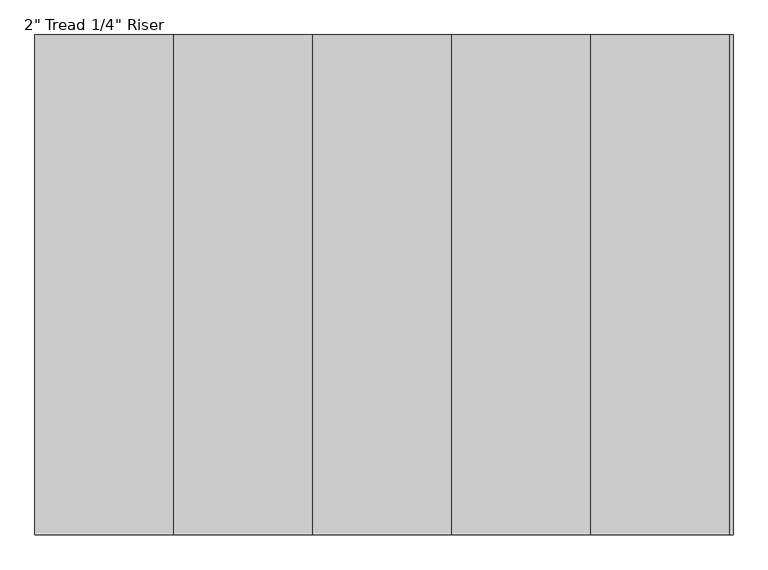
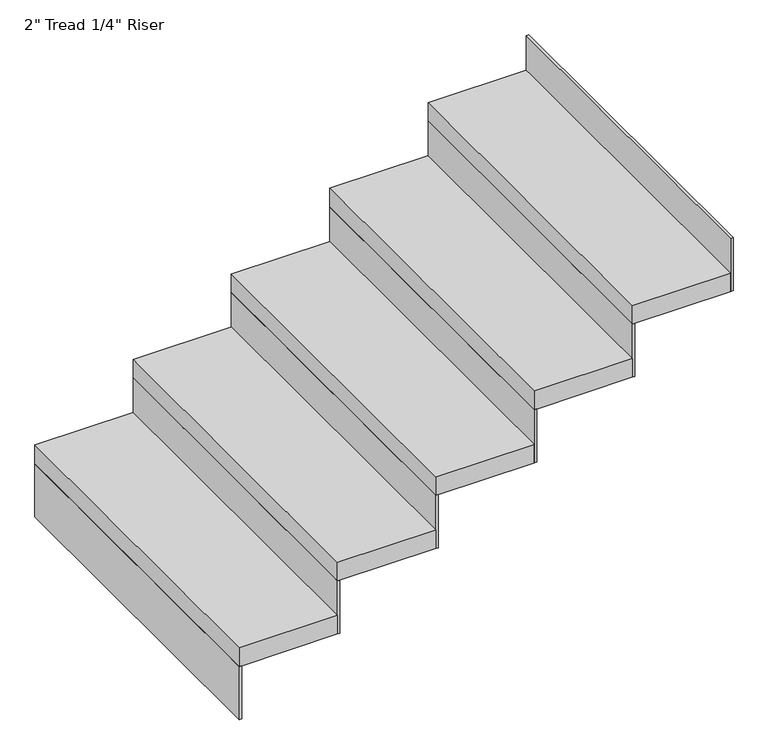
"""IFC4 building model written with IfcOpenShell, lengths in millimetres: stair flight geometry."""

from ifc_helpers import new_model, si_unit, frame, origin, place, context, project, spatial, polyline, outline, extrude, source, transform, mapped, element, save


def stair_flight_38fbb28f(model_context):
    return source(origin(), model_context, "Body", "SweptSolid", [
        extrude(outline(polyline([(113619.5003162, 32332.2812523), (113613.1503162, 32332.2812523), (113613.1503162, 33246.6812523), (113619.5003162, 33246.6812523), (113619.5003162, 32332.2812523)])), frame((0.0, 0.0, 2126.3428571), z_axis=(0.0, 0.0, 1.0), x_axis=(1.0, 0.0, 0.0)), (0.0, 0.0, 1.0), 145.1428571),
        extrude(outline(polyline([(113867.1503162, 33246.6812523), (113867.1503162, 32332.2812523), (113613.1503162, 32332.2812523), (113613.1503162, 33246.6812523), (113867.1503162, 33246.6812523)])), frame((0.0, 0.0, 2271.4857143), z_axis=(0.0, 0.0, 1.0), x_axis=(1.0, 0.0, 0.0)), (0.0, 0.0, 1.0), 50.8),
        extrude(outline(polyline([(113873.5003162, 32332.2812523), (113867.1503162, 32332.2812523), (113867.1503162, 33246.6812523), (113873.5003162, 33246.6812523), (113873.5003162, 32332.2812523)])), frame((0.0, 0.0, 2271.4857143), z_axis=(0.0, 0.0, 1.0), x_axis=(1.0, 0.0, 0.0)), (0.0, 0.0, 1.0), 145.1428571),
        extrude(outline(polyline([(114121.1503162, 33246.6812523), (114121.1503162, 32332.2812523), (113867.1503162, 32332.2812523), (113867.1503162, 33246.6812523), (114121.1503162, 33246.6812523)])), frame((0.0, 0.0, 2416.6285714), z_axis=(0.0, 0.0, 1.0), x_axis=(1.0, 0.0, 0.0)), (0.0, 0.0, 1.0), 50.8),
        extrude(outline(polyline([(114127.5003162, 32332.2812523), (114121.1503162, 32332.2812523), (114121.1503162, 33246.6812523), (114127.5003162, 33246.6812523), (114127.5003162, 32332.2812523)])), frame((0.0, 0.0, 2416.6285714), z_axis=(0.0, 0.0, 1.0), x_axis=(1.0, 0.0, 0.0)), (0.0, 0.0, 1.0), 145.1428571),
        extrude(outline(polyline([(114375.1503162, 33246.6812523), (114375.1503162, 32332.2812523), (114121.1503162, 32332.2812523), (114121.1503162, 33246.6812523), (114375.1503162, 33246.6812523)])), frame((0.0, 0.0, 2561.7714286), z_axis=(0.0, 0.0, 1.0), x_axis=(1.0, 0.0, 0.0)), (0.0, 0.0, 1.0), 50.8),
        extrude(outline(polyline([(114381.5003162, 32332.2812523), (114375.1503162, 32332.2812523), (114375.1503162, 33246.6812523), (114381.5003162, 33246.6812523), (114381.5003162, 32332.2812523)])), frame((0.0, 0.0, 2561.7714286), z_axis=(0.0, 0.0, 1.0), x_axis=(1.0, 0.0, 0.0)), (0.0, 0.0, 1.0), 145.1428571),
        extrude(outline(polyline([(114629.1503162, 33246.6812523), (114629.1503162, 32332.2812523), (114375.1503162, 32332.2812523), (114375.1503162, 33246.6812523), (114629.1503162, 33246.6812523)])), frame((0.0, 0.0, 2706.9142857), z_axis=(0.0, 0.0, 1.0), x_axis=(1.0, 0.0, 0.0)), (0.0, 0.0, 1.0), 50.8),
        extrude(outline(polyline([(114635.5003162, 32332.2812523), (114629.1503162, 32332.2812523), (114629.1503162, 33246.6812523), (114635.5003162, 33246.6812523), (114635.5003162, 32332.2812523)])), frame((0.0, 0.0, 2706.9142857), z_axis=(0.0, 0.0, 1.0), x_axis=(1.0, 0.0, 0.0)), (0.0, 0.0, 1.0), 145.1428571),
        extrude(outline(polyline([(114889.5003162, 32332.2812523), (114883.1503162, 32332.2812523), (114883.1503162, 33246.6812523), (114889.5003162, 33246.6812523), (114889.5003162, 32332.2812523)])), frame((0.0, 0.0, 2852.0571429), z_axis=(0.0, 0.0, 1.0), x_axis=(1.0, 0.0, 0.0)), (0.0, 0.0, 1.0), 145.1428571),
        extrude(outline(polyline([(114883.1503162, 33246.6812523), (114883.1503162, 32332.2812523), (114629.1503162, 32332.2812523), (114629.1503162, 33246.6812523), (114883.1503162, 33246.6812523)])), frame((0.0, 0.0, 2852.0571429), z_axis=(0.0, 0.0, 1.0), x_axis=(1.0, 0.0, 0.0)), (0.0, 0.0, 1.0), 50.8),
    ])


if __name__ == "__main__":
    model = new_model("IFC4")
    model_context = context("Model", 3, world=origin())
    ifc_project = project(units=[si_unit("LENGTHUNIT", "METRE", prefix="MILLI")], contexts=[model_context])
    site = spatial("IfcSite", under=ifc_project)
    building = spatial("IfcBuilding", under=site)
    placement = place(None, origin())
    stair_flight_shape = stair_flight_38fbb28f(model_context)
    element("IfcStairFlight", 1, ObjectType="2\" Tread 1/4\" Riser", at=placement, inside=building, context=model_context, shape_type="MappedRepresentation", body=[
        mapped(stair_flight_shape, transform((0.0, 0.0, 0.0), x_axis=(1.0, 0.0, 0.0), y_axis=(0.0, 1.0, 0.0), z_axis=(0.0, 0.0, 1.0))),
    ])
    save(model, "model.ifc")
